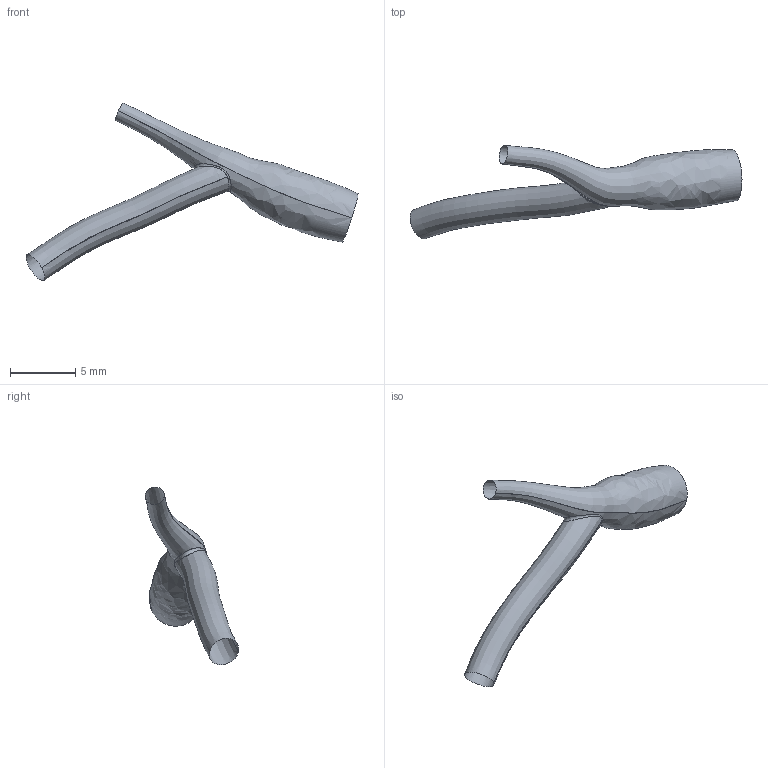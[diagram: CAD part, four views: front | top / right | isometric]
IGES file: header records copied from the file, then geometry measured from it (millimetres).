
Global section: file name: C:\Documents and Settings\Administrator\Desktop\FDA Bifurcation win\RawData_for_IGES\HRCA_Data\20010719.155526\IGES\20010719.155526.PDA.BIFUR.ED.igs; native system: Rhinoceros ( May 19 2006 ); preprocessor: Trout Lake IGES 012 May 19 2006; date: 100728.211712; units: centimetre
Bounding box: 25.48 x 7.17 x 13.64 mm (x, y, z)
Surface area: 302.3 mm2 (no closed solid volume)
Topology: 0 solids, 0 shells, 3 faces, 39 edges, 34 vertices
Faces by surface type: bspline 3
